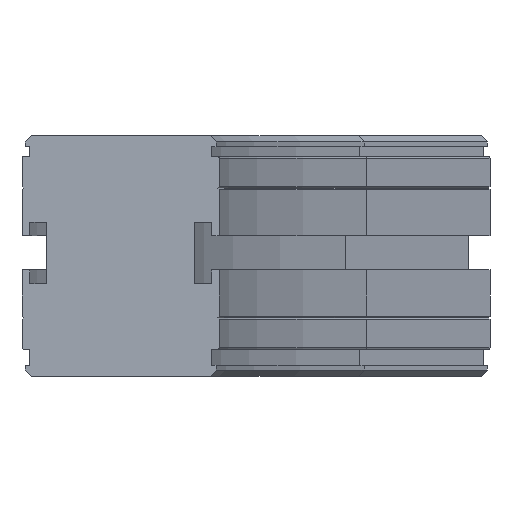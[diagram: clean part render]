
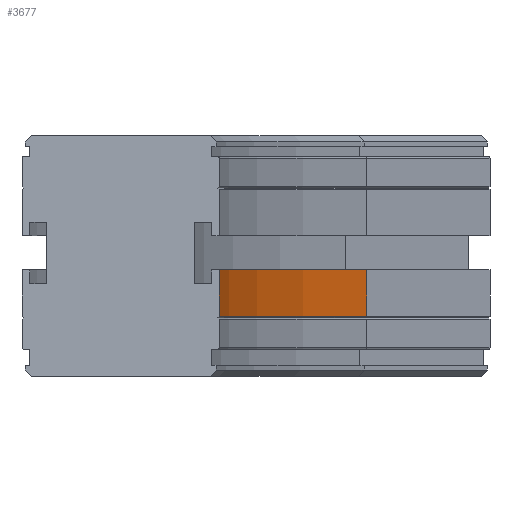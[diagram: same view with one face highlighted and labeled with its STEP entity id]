
A CAD part, left-side view. The second image highlights one B-rep face of the part: STEP entity #3677.
In plain terms, the highlighted cylindrical face has radius 357 mm (diameter 714 mm), a partial arc.
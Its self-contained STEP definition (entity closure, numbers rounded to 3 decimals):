
#2334=CARTESIAN_POINT('',(258.5,-79.829,-58.5));
#2335=VERTEX_POINT('',#2334);
#2365=CARTESIAN_POINT('',(258.5,-79.829,-43.5));
#2366=VERTEX_POINT('',#2365);
#2373=CARTESIAN_POINT('',(258.5,-79.829,-58.5));
#2374=DIRECTION('',(0.0,0.0,1.0));
#2375=VECTOR('',#2374,15.);
#2376=LINE('',#2373,#2375);
#2377=EDGE_CURVE('',#2335,#2366,#2376,.T.);
#3634=CARTESIAN_POINT('',(80.0,-32.0,-58.5));
#3635=VERTEX_POINT('',#3634);
#3636=CARTESIAN_POINT('',(80.,-389.,-58.5));
#3637=DIRECTION('',(0.0,0.0,-1.0));
#3638=DIRECTION('',(-0.5,-0.866,0.0));
#3639=AXIS2_PLACEMENT_3D('',#3636,#3637,#3638);
#3640=CIRCLE('',#3639,357.);
#3641=EDGE_CURVE('',#3635,#2335,#3640,.T.);
#3653=CARTESIAN_POINT('',(80.,-389.,-51.));
#3654=DIRECTION('',(0.0,0.0,-1.0));
#3655=DIRECTION('',(-0.5,-0.866,0.0));
#3656=AXIS2_PLACEMENT_3D('',#3653,#3654,#3655);
#3657=CYLINDRICAL_SURFACE('',#3656,357.);
#3658=ORIENTED_EDGE('',*,*,#2377,.T.);
#3659=CARTESIAN_POINT('',(80.0,-32.0,-43.5));
#3660=VERTEX_POINT('',#3659);
#3661=CARTESIAN_POINT('',(80.,-389.,-43.5));
#3662=DIRECTION('',(0.0,0.0,-1.0));
#3663=DIRECTION('',(-0.5,-0.866,0.0));
#3664=AXIS2_PLACEMENT_3D('',#3661,#3662,#3663);
#3665=CIRCLE('',#3664,357.);
#3666=EDGE_CURVE('',#3660,#2366,#3665,.T.);
#3667=ORIENTED_EDGE('',*,*,#3666,.F.);
#3668=CARTESIAN_POINT('',(80.0,-32.0,-58.5));
#3669=DIRECTION('',(0.0,0.0,1.0));
#3670=VECTOR('',#3669,15.);
#3671=LINE('',#3668,#3670);
#3672=EDGE_CURVE('',#3635,#3660,#3671,.T.);
#3673=ORIENTED_EDGE('',*,*,#3672,.F.);
#3674=ORIENTED_EDGE('',*,*,#3641,.T.);
#3675=EDGE_LOOP('',(#3658,#3667,#3673,#3674));
#3676=FACE_OUTER_BOUND('',#3675,.T.);
#3677=ADVANCED_FACE('',(#3676),#3657,.F.);
